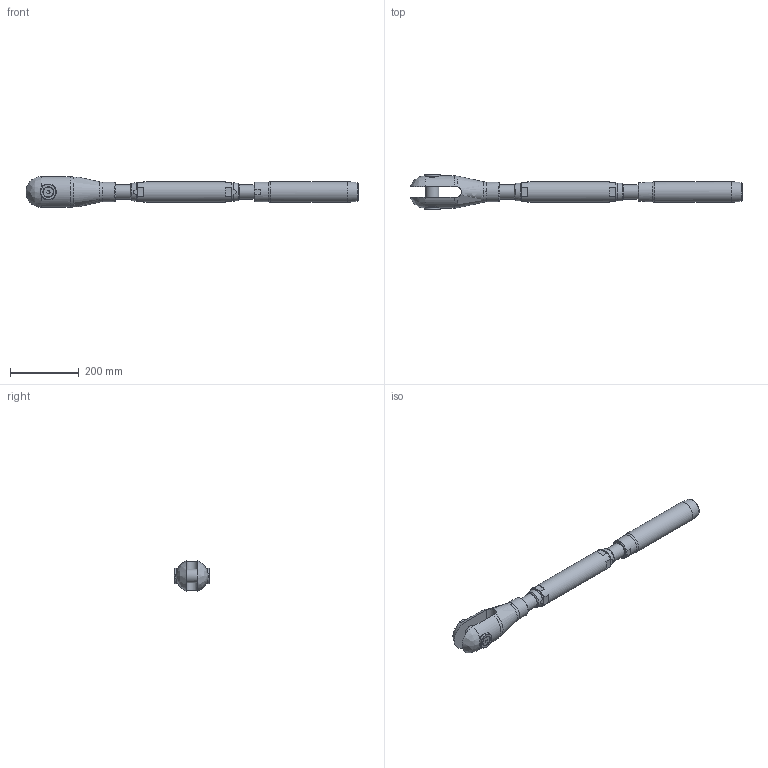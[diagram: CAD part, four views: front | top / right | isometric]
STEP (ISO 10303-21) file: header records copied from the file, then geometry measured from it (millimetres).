
FILE_DESCRIPTION(/* description */ (''),/* implementation_level */ '2;1');
FILE_NAME(/* name */ 'TBC 28_1,4462',/* time_stamp */ '2023-05-23T18:17:15+02:00',/* author */ (''),/* organization */ (''),/* preprocessor_version */ 'ST-DEVELOPER v16.5',/* originating_system */ 'Rhino 7.22',/* authorisation */ '');
FILE_SCHEMA (('CONFIG_CONTROL_DESIGN'));
Length unit declared in the file: millimetre
Products named in the file (1): Document
Bounding box: 964.14 x 102.59 x 88.39 mm (x, y, z)
Volume: 2661080 mm3; surface area: 326910 mm2
Topology: 10 solids, 10 shells, 140 faces, 382 edges, 264 vertices
Faces by surface type: plane 65, bspline 40, cylinder 35
Full cylindrical faces by diameter (mm): 13.835 x2, 16 x2, 17 x2, 29.01 x2, 38.752 x4, 39 x1, 41 x2, 42 x2, 45 x2, 46 x1, 57.2 x2, 60 x1, 60.5 x1
Entity records: 5927 total; most frequent: CARTESIAN_POINT 3502, ORIENTED_EDGE 756, EDGE_CURVE 378, VERTEX_POINT 264, EDGE_LOOP 160, B_SPLINE_CURVE_WITH_KNOTS 157, ADVANCED_FACE 140, FACE_OUTER_BOUND 140
